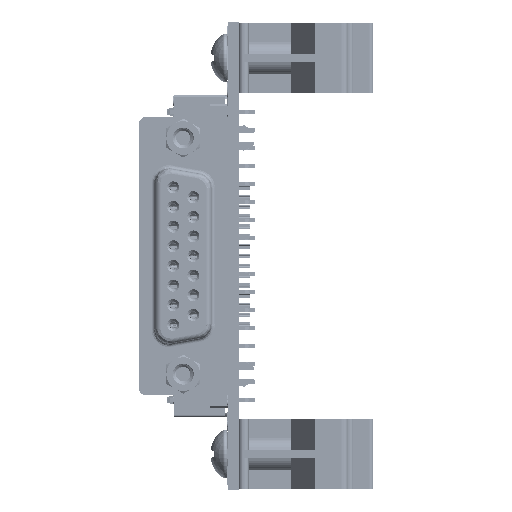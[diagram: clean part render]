
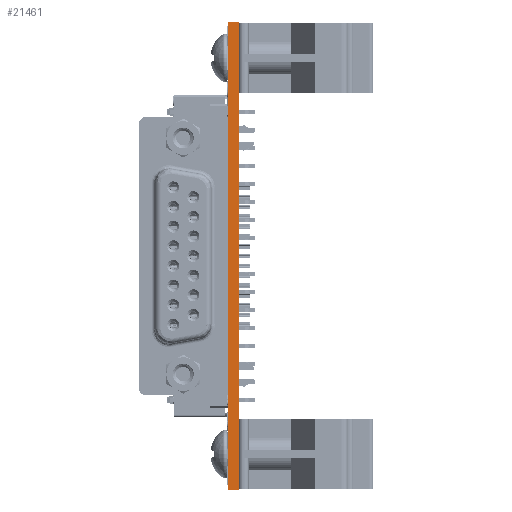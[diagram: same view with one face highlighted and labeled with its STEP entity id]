
A CAD part, left-side view. The second image highlights one B-rep face of the part: STEP entity #21461.
In plain terms, the highlighted planar face has unit normal (-1, 0, 0).
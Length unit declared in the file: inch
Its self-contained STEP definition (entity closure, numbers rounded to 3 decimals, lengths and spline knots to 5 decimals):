
#6457 = CARTESIAN_POINT ( 'NONE',  ( 17.46, -0.062, -3.8 ) ) ;
#20505 = VECTOR ( 'NONE', #455714, 39.37008 ) ;
#21461 = ADVANCED_FACE ( 'NONE', ( #702602 ), #504497, .T. ) ;
#44240 = ORIENTED_EDGE ( 'NONE', *, *, #708966, .T. ) ;
#102283 = EDGE_LOOP ( 'NONE', ( #213836, #492238, #44240, #265729 ) ) ;
#115266 = LINE ( 'NONE', #394977, #363903 ) ;
#124410 = CARTESIAN_POINT ( 'NONE',  ( 17.46, -0.062, -3.8 ) ) ;
#150926 = CARTESIAN_POINT ( 'NONE',  ( 17.46, -0.062, -6.4 ) ) ;
#198428 = LINE ( 'NONE', #398145, #331724 ) ;
#205645 = CARTESIAN_POINT ( 'NONE',  ( 17.46, 0., -6.4 ) ) ;
#213836 = ORIENTED_EDGE ( 'NONE', *, *, #234942, .F. ) ;
#218918 = CARTESIAN_POINT ( 'NONE',  ( 17.46, -0.062, -3.8 ) ) ;
#234942 = EDGE_CURVE ( 'NONE', #551972, #581462, #198428, .T. ) ;
#235529 = CARTESIAN_POINT ( 'NONE',  ( 17.46, -0.062, -6.4 ) ) ;
#244114 = VECTOR ( 'NONE', #709040, 39.37008 ) ;
#259610 = LINE ( 'NONE', #6457, #20505 ) ;
#264299 = EDGE_CURVE ( 'NONE', #508033, #581462, #259610, .T. ) ;
#265729 = ORIENTED_EDGE ( 'NONE', *, *, #264299, .T. ) ;
#278456 = DIRECTION ( 'NONE',  ( 0., 0., 1. ) ) ;
#280903 = DIRECTION ( 'NONE',  ( -1., 0., 0. ) ) ;
#300510 = VERTEX_POINT ( 'NONE', #235529 ) ;
#331724 = VECTOR ( 'NONE', #507364, 39.37008 ) ;
#348461 = CARTESIAN_POINT ( 'NONE',  ( 17.46, 0., -3.8 ) ) ;
#363903 = VECTOR ( 'NONE', #724707, 39.37008 ) ;
#394977 = CARTESIAN_POINT ( 'NONE',  ( 17.46, -0.062, -3.8 ) ) ;
#398145 = CARTESIAN_POINT ( 'NONE',  ( 17.46, 0., -3.8 ) ) ;
#455714 = DIRECTION ( 'NONE',  ( 0., 1., 0. ) ) ;
#492238 = ORIENTED_EDGE ( 'NONE', *, *, #595487, .F. ) ;
#492944 = AXIS2_PLACEMENT_3D ( 'NONE', #218918, #280903, #278456 ) ;
#504497 = PLANE ( 'NONE',  #492944 ) ;
#507364 = DIRECTION ( 'NONE',  ( 0., 0., 1. ) ) ;
#508033 = VERTEX_POINT ( 'NONE', #124410 ) ;
#551972 = VERTEX_POINT ( 'NONE', #205645 ) ;
#572464 = LINE ( 'NONE', #150926, #244114 ) ;
#581462 = VERTEX_POINT ( 'NONE', #348461 ) ;
#595487 = EDGE_CURVE ( 'NONE', #300510, #551972, #572464, .T. ) ;
#702602 = FACE_OUTER_BOUND ( 'NONE', #102283, .T. ) ;
#708966 = EDGE_CURVE ( 'NONE', #300510, #508033, #115266, .T. ) ;
#709040 = DIRECTION ( 'NONE',  ( 0., 1., 0. ) ) ;
#724707 = DIRECTION ( 'NONE',  ( 0., 0., 1. ) ) ;
